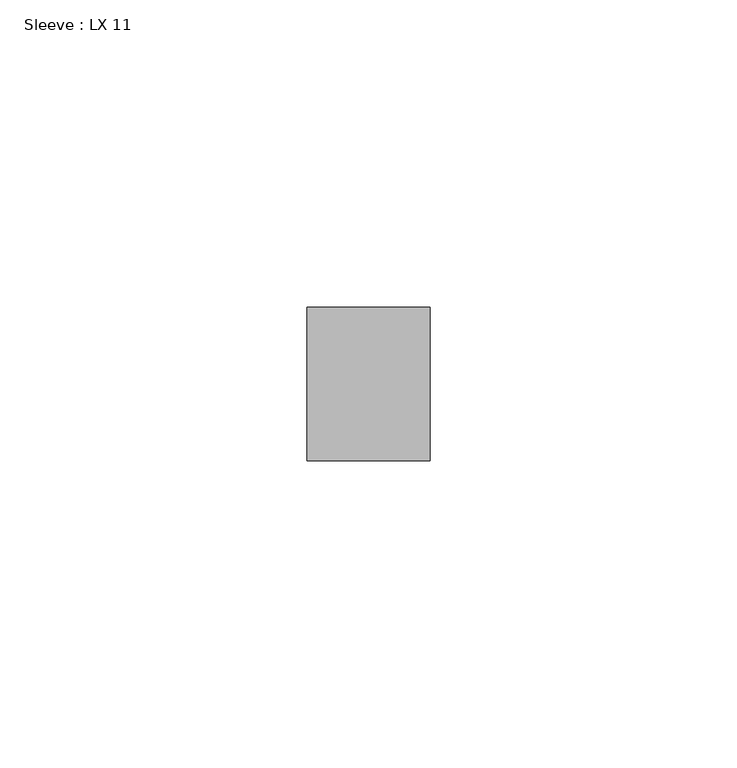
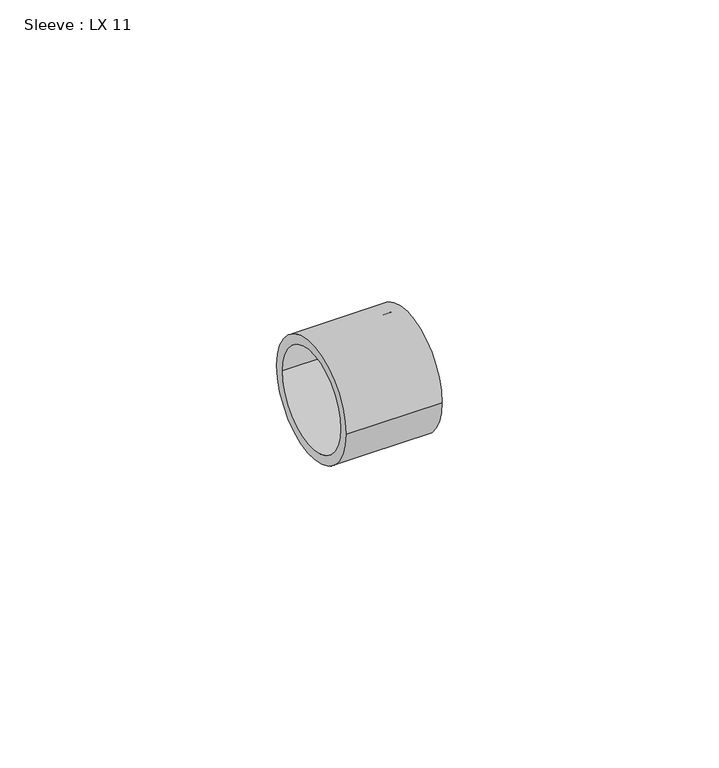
"""IFC4 building model written with IfcOpenShell, lengths in millimetres: pipe fitting geometry, Sleeve : LX 11."""

import ifcopenshell
import ifcopenshell.guid

model = None  # the IFC model being written
_history = None  # IfcOwnerHistory: only IFC2X3 demands one
_inside = {}  # id of a spatial element -> (the spatial element, [elements in it])
_under = {}  # id of a project, library or spatial element -> (it, [spatial elements below it])
_declared = {}  # id of a project -> (the project, [libraries it declares])
_typed = {}  # id of a type object -> (the type object, [elements of that type])
_made_of = {}  # id of a material, layer set ... -> (it, [elements and type objects made of it])


def new_model(schema):
    """Start an empty IFC model of exactly this schema.

    Asked for "IFC4X3", IfcOpenShell would pick the latest addendum, in which some entities
    have other attributes; the version numbers below select the first issue.
    IFC2X3 requires an IfcOwnerHistory on every rooted entity: one is made here for all.
    """
    global model, _history
    if schema == "IFC4X3":
        model = ifcopenshell.file(schema_version=(4, 3, 0, 0))
    else:
        model = ifcopenshell.file(schema=schema)
    _inside.clear()
    _under.clear()
    _declared.clear()
    _typed.clear()
    _made_of.clear()
    _history = None
    if model.schema == "IFC2X3":
        org = make("IfcOrganization", Name="unknown")
        user = make(
            "IfcPersonAndOrganization",
            ThePerson=make("IfcPerson", FamilyName="unknown"),
            TheOrganization=org,
        )
        app = make(
            "IfcApplication",
            ApplicationDeveloper=org,
            Version="unknown",
            ApplicationFullName="unknown",
            ApplicationIdentifier="unknown",
        )
        _history = make(
            "IfcOwnerHistory",
            OwningUser=user,
            OwningApplication=app,
            ChangeAction="ADDED",
            CreationDate=0,
        )
    return model


def make(cls, **values):
    """One entity of the class cls with the attributes given. An attribute that is None is left unset."""
    return model.create_entity(
        cls, **{name: value for name, value in values.items() if value is not None}
    )


def rooted(cls, **values):
    """An entity with a GlobalId (a new one), such as an element, a storey or a relation."""
    return make(cls, GlobalId=ifcopenshell.guid.new(), OwnerHistory=_history, **values)


def si_unit(unit_type, name, prefix=None):
    """IfcSIUnit, for example si_unit("LENGTHUNIT", "METRE", prefix="MILLI")."""
    return make("IfcSIUnit", UnitType=unit_type, Prefix=prefix, Name=name)


def assignment(units):
    """IfcUnitAssignment: the units of a project."""
    return None if units is None else make("IfcUnitAssignment", Units=units)


def point(xyz):
    """IfcCartesianPoint."""
    return None if xyz is None else make("IfcCartesianPoint", Coordinates=xyz)


def direction(xyz):
    """IfcDirection."""
    return None if xyz is None else make("IfcDirection", DirectionRatios=xyz)


def frame(location, z_axis=None, x_axis=None):
    """IfcAxis2Placement3D, a coordinate frame: its origin and axes. An axis left out is left unset."""
    return make(
        "IfcAxis2Placement3D",
        Location=point(location),
        Axis=direction(z_axis),
        RefDirection=direction(x_axis),
    )


def frame_2d(location, x_axis=None):
    """IfcAxis2Placement2D, a coordinate frame in the plane: its origin and x axis."""
    return make(
        "IfcAxis2Placement2D", Location=point(location), RefDirection=direction(x_axis)
    )


def origin():
    """The frame at (0, 0, 0) with its axes left unset."""
    return frame((0.0, 0.0, 0.0))


def origin_2d():
    """The frame at (0, 0) in the plane with its x axis left unset."""
    return frame_2d((0.0, 0.0))


def place(relative_to, where):
    """IfcLocalPlacement: puts the frame where relative to a parent placement (None: the world)."""
    return make(
        "IfcLocalPlacement", PlacementRelTo=relative_to, RelativePlacement=where
    )


def context(
    kind, dimensions, precision=None, world=None, true_north=None, identifier=None
):
    """IfcGeometricRepresentationContext, for example the 3D "Model" context."""
    return make(
        "IfcGeometricRepresentationContext",
        ContextIdentifier=identifier,
        ContextType=kind,
        CoordinateSpaceDimension=dimensions,
        Precision=precision,
        WorldCoordinateSystem=world,
        TrueNorth=true_north,
    )


def project(units=None, contexts=None):
    """IfcProject with its units and contexts."""
    return rooted(
        "IfcProject",
        Name="project",
        RepresentationContexts=contexts,
        UnitsInContext=assignment(units),
    )


def spatial(cls, under=None, at=None, **own):
    """A site, building, storey or space (cls), placed at a placement, below another one or the project."""
    s = rooted(cls, ObjectPlacement=at, **own)
    if under is not None:
        _under.setdefault(under.id(), (under, []))[1].append(s)
    return s


def circle_curve(where, radius):
    """IfcCircle in the frame where."""
    return make("IfcCircle", Position=where, Radius=radius)


def trimmed(basis, trim1, trim2, sense, master):
    """IfcTrimmedCurve: the piece of a basis curve between two trims."""
    return make(
        "IfcTrimmedCurve",
        BasisCurve=basis,
        Trim1=trim1,
        Trim2=trim2,
        SenseAgreement=sense,
        MasterRepresentation=master,
    )


def segment(curve, same_sense, transition):
    """IfcCompositeCurveSegment."""
    return make(
        "IfcCompositeCurveSegment",
        Transition=transition,
        SameSense=same_sense,
        ParentCurve=curve,
    )


def composite_curve(segments, self_intersect=None):
    """IfcCompositeCurve: segments joined end to end."""
    return make("IfcCompositeCurve", Segments=segments, SelfIntersect=self_intersect)


def outline(outer, holes=None, kind="AREA"):
    """IfcArbitraryClosedProfileDef: a profile drawn as a closed curve; with holes, ...WithVoids."""
    if holes is None:
        return make("IfcArbitraryClosedProfileDef", ProfileType=kind, OuterCurve=outer)
    return make(
        "IfcArbitraryProfileDefWithVoids",
        ProfileType=kind,
        OuterCurve=outer,
        InnerCurves=holes,
    )


def extrude(swept, where, along, depth):
    """IfcExtrudedAreaSolid: the profile swept, set in the frame where, extruded along a direction by depth."""
    return make(
        "IfcExtrudedAreaSolid",
        SweptArea=swept,
        Position=where,
        ExtrudedDirection=direction(along),
        Depth=depth,
    )


def shape(context_of_items, identifier, shape_type, items):
    """IfcShapeRepresentation: the items that make up one representation, for example the "Body"."""
    return make(
        "IfcShapeRepresentation",
        ContextOfItems=context_of_items,
        RepresentationIdentifier=identifier,
        RepresentationType=shape_type,
        Items=items,
    )


def source(mapping_origin, context_of_items, identifier, shape_type, items):
    """IfcRepresentationMap: a shape defined once, which mapped items show again and again."""
    return make(
        "IfcRepresentationMap",
        MappingOrigin=mapping_origin,
        MappedRepresentation=shape(context_of_items, identifier, shape_type, items),
    )


def transform(
    local_origin,
    x_axis=None,
    y_axis=None,
    z_axis=None,
    scale=None,
    scale2=None,
    scale3=None,
    uniform=True,
):
    """IfcCartesianTransformationOperator3D, or its non-uniform kind. x_axis, y_axis, z_axis: its Axis1, 2, 3."""
    if uniform:
        return make(
            "IfcCartesianTransformationOperator3D",
            Axis1=direction(x_axis),
            Axis2=direction(y_axis),
            LocalOrigin=point(local_origin),
            Scale=scale,
            Axis3=direction(z_axis),
        )
    return make(
        "IfcCartesianTransformationOperator3DnonUniform",
        Axis1=direction(x_axis),
        Axis2=direction(y_axis),
        LocalOrigin=point(local_origin),
        Scale=scale,
        Axis3=direction(z_axis),
        Scale2=scale2,
        Scale3=scale3,
    )


def mapped(mapping_source, mapping_target):
    """IfcMappedItem: shows the shape of a source again, moved by a transform."""
    return make(
        "IfcMappedItem", MappingSource=mapping_source, MappingTarget=mapping_target
    )


def made_of(thing, what):
    """Note that an element or type object is made of a material, layer set ...; save() writes the relation."""
    if what is not None:
        _made_of.setdefault(what.id(), (what, []))[1].append(thing)
    return thing


def element(
    cls,
    number,
    at=None,
    inside=None,
    cuts=None,
    type_object=None,
    material=None,
    context=None,
    identifier="Body",
    shape_type=None,
    held_by="IfcProductDefinitionShape",
    body=None,
    shapes=None,
    **own,
):
    """One element of the class cls, such as IfcWall. Its Tag is "e" and its number.

    at: its placement. inside: the storey or other place that contains it. cuts: it is an
    opening in that element (IfcRelVoidsElement). A single representation is given by context,
    identifier, shape_type and body (its items); several are given by shapes. held_by: the class
    of the entity that holds the representations. save() writes the other relations.
    """
    e = rooted(cls, Tag="e%d" % number, ObjectPlacement=at, **own)
    if body is not None:
        shapes = [shape(context, identifier, shape_type, body)]
    if shapes is not None:
        e.Representation = make(held_by, Representations=shapes)
    if inside is not None:
        _inside.setdefault(inside.id(), (inside, []))[1].append(e)
    if cuts is not None:
        rooted(
            "IfcRelVoidsElement", RelatingBuildingElement=cuts, RelatedOpeningElement=e
        )
    if type_object is not None:
        _typed.setdefault(type_object.id(), (type_object, []))[1].append(e)
    return made_of(e, material)


def aggregate(whole, parts):
    """IfcRelAggregates: a whole, such as a stair, and the parts it consists of."""
    return rooted("IfcRelAggregates", RelatingObject=whole, RelatedObjects=parts)


def save(model, path):
    """Write the relations noted so far, then the file.

    IfcRelAggregates (storeys below a building ...), IfcRelContainedInSpatialStructure (elements
    in a storey), IfcRelDefinesByType, IfcRelAssociatesMaterial and IfcRelDeclares: one each for
    every whole, place, type object, material and project.
    """
    for whole, parts in _under.values():
        aggregate(whole, parts)
    for where, things in _inside.values():
        rooted(
            "IfcRelContainedInSpatialStructure",
            RelatedElements=things,
            RelatingStructure=where,
        )
    for kind, things in _typed.values():
        rooted("IfcRelDefinesByType", RelatedObjects=things, RelatingType=kind)
    for what, things in _made_of.values():
        rooted("IfcRelAssociatesMaterial", RelatedObjects=things, RelatingMaterial=what)
    for by, libraries in _declared.values():
        rooted("IfcRelDeclares", RelatingContext=by, RelatedDefinitions=libraries)
    model.write(path)


def sleeve_lx_11_3fcb8560(model_context):
    return source(origin(), model_context, "Body", "SweptSolid", [
        extrude(outline(composite_curve([segment(trimmed(circle_curve(origin_2d(), 12.5), [point((-12.5, 0.0))], [point((12.5, 0.0))], False, "CARTESIAN"), True, "CONTINUOUS"), segment(trimmed(circle_curve(origin_2d(), 12.5), [point((12.5, 0.0))], [point((-12.5, 0.0))], False, "CARTESIAN"), True, "CONTINUOUS")], self_intersect=False), holes=[composite_curve([segment(trimmed(circle_curve(origin_2d(), 10.5), [point((-10.5, 0.0))], [point((10.5, 0.0))], True, "CARTESIAN"), True, "CONTINUOUS"), segment(trimmed(circle_curve(origin_2d(), 10.5), [point((10.5, 0.0))], [point((-10.5, 0.0))], True, "CARTESIAN"), True, "CONTINUOUS")], self_intersect=False)]), frame((0.0, 0.0, 0.0), z_axis=(1.0, 0.0, 0.0), x_axis=(0.0, 1.0, 0.0)), (0.0, 0.0, 1.0), 20.0),
    ])


if __name__ == "__main__":
    model = new_model("IFC4")
    model_context = context("Model", 3, world=origin())
    ifc_project = project(units=[si_unit("LENGTHUNIT", "METRE", prefix="MILLI")], contexts=[model_context])
    site = spatial("IfcSite", under=ifc_project)
    building = spatial("IfcBuilding", under=site)
    placement = place(None, origin())
    sleeve_lx_11_shape = sleeve_lx_11_3fcb8560(model_context)
    element("IfcPipeFitting", 1, ObjectType="Sleeve : LX 11", at=placement, inside=building, context=model_context, shape_type="MappedRepresentation", body=[
        mapped(sleeve_lx_11_shape, transform((0.0, 0.0, 0.0), x_axis=(1.0, 0.0, 0.0), y_axis=(0.0, 1.0, 0.0), z_axis=(0.0, 0.0, 1.0))),
    ])
    save(model, "model.ifc")
